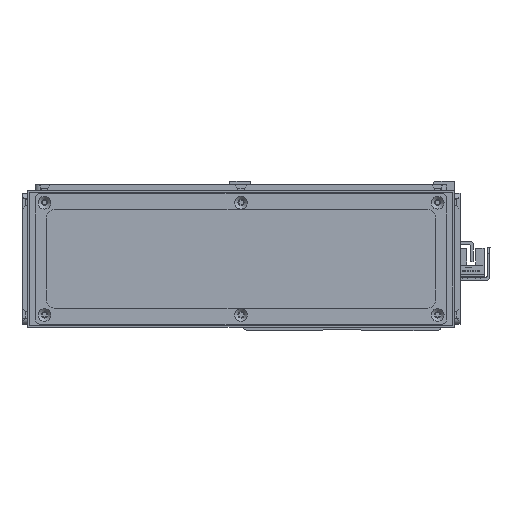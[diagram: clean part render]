
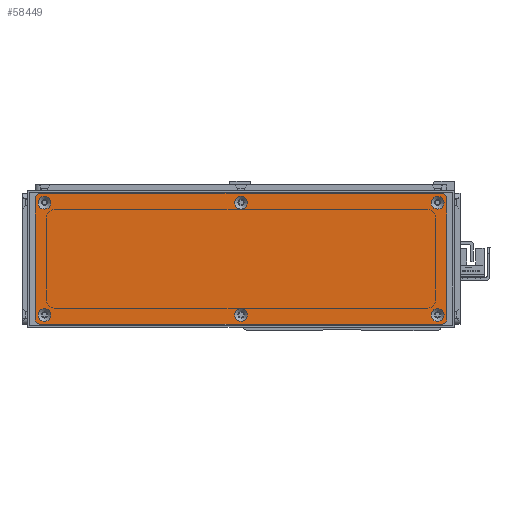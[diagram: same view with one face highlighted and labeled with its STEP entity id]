
A CAD part, front view. The second image highlights one B-rep face of the part: STEP entity #58449.
In plain terms, the highlighted planar face has unit normal (0, -1, 0).
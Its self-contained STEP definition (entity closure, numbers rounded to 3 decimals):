
#2510=FACE_BOUND('',#10045,.T.);
#2511=FACE_BOUND('',#10046,.T.);
#2512=FACE_BOUND('',#10047,.T.);
#2513=FACE_BOUND('',#10048,.T.);
#2514=FACE_BOUND('',#10049,.T.);
#2515=FACE_BOUND('',#10050,.T.);
#3808=CIRCLE('',#62982,3.45);
#3811=CIRCLE('',#62987,3.45);
#3814=CIRCLE('',#62992,3.45);
#3817=CIRCLE('',#62997,3.45);
#3820=CIRCLE('',#63002,3.45);
#3823=CIRCLE('',#63007,3.45);
#3826=CIRCLE('',#63012,3.);
#3828=CIRCLE('',#63015,3.);
#3829=CIRCLE('',#63016,3.);
#3830=CIRCLE('',#63017,3.);
#6691=FACE_OUTER_BOUND('',#10044,.T.);
#10044=EDGE_LOOP('',(#52927,#52928,#52929,#52930,#52931,#52932,#52933,#52934));
#10045=EDGE_LOOP('',(#52935));
#10046=EDGE_LOOP('',(#52936));
#10047=EDGE_LOOP('',(#52937));
#10048=EDGE_LOOP('',(#52938));
#10049=EDGE_LOOP('',(#52939));
#10050=EDGE_LOOP('',(#52940));
#16569=LINE('',#97798,#23125);
#16570=LINE('',#97802,#23126);
#16571=LINE('',#97806,#23127);
#16572=LINE('',#97809,#23128);
#23125=VECTOR('',#77803,10.);
#23126=VECTOR('',#77806,10.);
#23127=VECTOR('',#77809,10.);
#23128=VECTOR('',#77812,10.);
#28633=VERTEX_POINT('',#97728);
#28636=VERTEX_POINT('',#97738);
#28639=VERTEX_POINT('',#97748);
#28642=VERTEX_POINT('',#97758);
#28645=VERTEX_POINT('',#97768);
#28648=VERTEX_POINT('',#97778);
#28651=VERTEX_POINT('',#97788);
#28652=VERTEX_POINT('',#97789);
#28655=VERTEX_POINT('',#97797);
#28656=VERTEX_POINT('',#97799);
#28657=VERTEX_POINT('',#97801);
#28658=VERTEX_POINT('',#97803);
#28659=VERTEX_POINT('',#97805);
#28660=VERTEX_POINT('',#97807);
#36751=EDGE_CURVE('',#28633,#28633,#3808,.T.);
#36756=EDGE_CURVE('',#28636,#28636,#3811,.T.);
#36761=EDGE_CURVE('',#28639,#28639,#3814,.T.);
#36766=EDGE_CURVE('',#28642,#28642,#3817,.T.);
#36771=EDGE_CURVE('',#28645,#28645,#3820,.T.);
#36776=EDGE_CURVE('',#28648,#28648,#3823,.T.);
#36781=EDGE_CURVE('',#28651,#28652,#3826,.T.);
#36785=EDGE_CURVE('',#28651,#28655,#16569,.T.);
#36786=EDGE_CURVE('',#28656,#28655,#3828,.T.);
#36787=EDGE_CURVE('',#28656,#28657,#16570,.T.);
#36788=EDGE_CURVE('',#28658,#28657,#3829,.T.);
#36789=EDGE_CURVE('',#28658,#28659,#16571,.T.);
#36790=EDGE_CURVE('',#28660,#28659,#3830,.T.);
#36791=EDGE_CURVE('',#28660,#28652,#16572,.T.);
#52927=ORIENTED_EDGE('',*,*,#36781,.F.);
#52928=ORIENTED_EDGE('',*,*,#36785,.T.);
#52929=ORIENTED_EDGE('',*,*,#36786,.F.);
#52930=ORIENTED_EDGE('',*,*,#36787,.T.);
#52931=ORIENTED_EDGE('',*,*,#36788,.F.);
#52932=ORIENTED_EDGE('',*,*,#36789,.T.);
#52933=ORIENTED_EDGE('',*,*,#36790,.F.);
#52934=ORIENTED_EDGE('',*,*,#36791,.T.);
#52935=ORIENTED_EDGE('',*,*,#36751,.T.);
#52936=ORIENTED_EDGE('',*,*,#36756,.T.);
#52937=ORIENTED_EDGE('',*,*,#36761,.T.);
#52938=ORIENTED_EDGE('',*,*,#36766,.T.);
#52939=ORIENTED_EDGE('',*,*,#36771,.T.);
#52940=ORIENTED_EDGE('',*,*,#36776,.T.);
#55609=PLANE('',#63014);
#58449=ADVANCED_FACE('',(#6691,#2510,#2511,#2512,#2513,#2514,#2515),#55609,
 .T.);
#62982=AXIS2_PLACEMENT_3D('',#97729,#77723,#77724);
#62987=AXIS2_PLACEMENT_3D('',#97739,#77735,#77736);
#62992=AXIS2_PLACEMENT_3D('',#97749,#77747,#77748);
#62997=AXIS2_PLACEMENT_3D('',#97759,#77759,#77760);
#63002=AXIS2_PLACEMENT_3D('',#97769,#77771,#77772);
#63007=AXIS2_PLACEMENT_3D('',#97779,#77783,#77784);
#63012=AXIS2_PLACEMENT_3D('',#97790,#77795,#77796);
#63014=AXIS2_PLACEMENT_3D('',#97796,#77801,#77802);
#63015=AXIS2_PLACEMENT_3D('',#97800,#77804,#77805);
#63016=AXIS2_PLACEMENT_3D('',#97804,#77807,#77808);
#63017=AXIS2_PLACEMENT_3D('',#97808,#77810,#77811);
#77723=DIRECTION('center_axis',(0.,1.,0.));
#77724=DIRECTION('ref_axis',(1.,0.,0.));
#77735=DIRECTION('center_axis',(0.,1.,0.));
#77736=DIRECTION('ref_axis',(1.,0.,0.));
#77747=DIRECTION('center_axis',(0.,1.,0.));
#77748=DIRECTION('ref_axis',(1.,0.,0.));
#77759=DIRECTION('center_axis',(0.,1.,0.));
#77760=DIRECTION('ref_axis',(1.,0.,0.));
#77771=DIRECTION('center_axis',(0.,1.,0.));
#77772=DIRECTION('ref_axis',(1.,0.,0.));
#77783=DIRECTION('center_axis',(0.,1.,0.));
#77784=DIRECTION('ref_axis',(1.,0.,0.));
#77795=DIRECTION('center_axis',(0.,1.,0.));
#77796=DIRECTION('ref_axis',(-0.707,0.,0.707));
#77801=DIRECTION('center_axis',(0.,-1.,0.));
#77802=DIRECTION('ref_axis',(0.,0.,-1.));
#77803=DIRECTION('',(0.,0.,-1.));
#77804=DIRECTION('center_axis',(0.,1.,0.));
#77805=DIRECTION('ref_axis',(-0.707,0.,-0.707));
#77806=DIRECTION('',(1.,0.,0.));
#77807=DIRECTION('center_axis',(0.,1.,0.));
#77808=DIRECTION('ref_axis',(0.707,0.,-0.707));
#77809=DIRECTION('',(0.,0.,1.));
#77810=DIRECTION('center_axis',(0.,1.,0.));
#77811=DIRECTION('ref_axis',(0.707,0.,0.707));
#77812=DIRECTION('',(-1.,0.,0.));
#97728=CARTESIAN_POINT('',(101.55,-1.5,30.));
#97729=CARTESIAN_POINT('Origin',(105.,-1.5,30.));
#97738=CARTESIAN_POINT('',(-3.45,-1.5,-30.));
#97739=CARTESIAN_POINT('Origin',(0.,-1.5,-30.));
#97748=CARTESIAN_POINT('',(-108.45,-1.5,30.));
#97749=CARTESIAN_POINT('Origin',(-105.,-1.5,30.));
#97758=CARTESIAN_POINT('',(-108.45,-1.5,-30.));
#97759=CARTESIAN_POINT('Origin',(-105.,-1.5,-30.));
#97768=CARTESIAN_POINT('',(-3.45,-1.5,30.));
#97769=CARTESIAN_POINT('Origin',(0.,-1.5,30.));
#97778=CARTESIAN_POINT('',(101.55,-1.5,-30.));
#97779=CARTESIAN_POINT('Origin',(105.,-1.5,-30.));
#97788=CARTESIAN_POINT('',(-110.,-1.5,32.));
#97789=CARTESIAN_POINT('',(-107.,-1.5,35.));
#97790=CARTESIAN_POINT('Origin',(-107.,-1.5,32.));
#97796=CARTESIAN_POINT('Origin',(0.,-1.5,0.));
#97797=CARTESIAN_POINT('',(-110.,-1.5,-32.));
#97798=CARTESIAN_POINT('',(-110.,-1.5,35.));
#97799=CARTESIAN_POINT('',(-107.,-1.5,-35.));
#97800=CARTESIAN_POINT('Origin',(-107.,-1.5,-32.));
#97801=CARTESIAN_POINT('',(107.,-1.5,-35.));
#97802=CARTESIAN_POINT('',(-110.,-1.5,-35.));
#97803=CARTESIAN_POINT('',(110.,-1.5,-32.));
#97804=CARTESIAN_POINT('Origin',(107.,-1.5,-32.));
#97805=CARTESIAN_POINT('',(110.,-1.5,32.));
#97806=CARTESIAN_POINT('',(110.,-1.5,-35.));
#97807=CARTESIAN_POINT('',(107.,-1.5,35.));
#97808=CARTESIAN_POINT('Origin',(107.,-1.5,32.));
#97809=CARTESIAN_POINT('',(110.,-1.5,35.));
